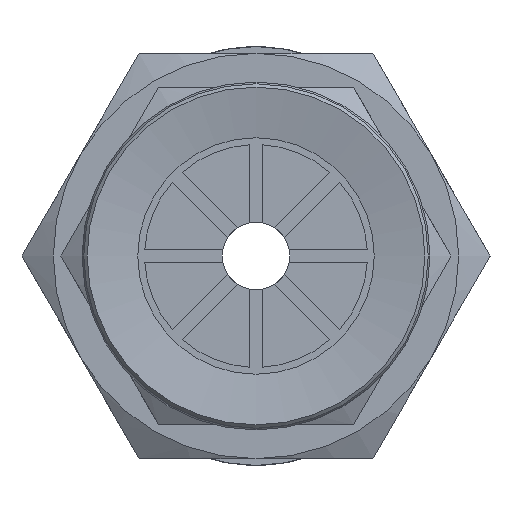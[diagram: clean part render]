
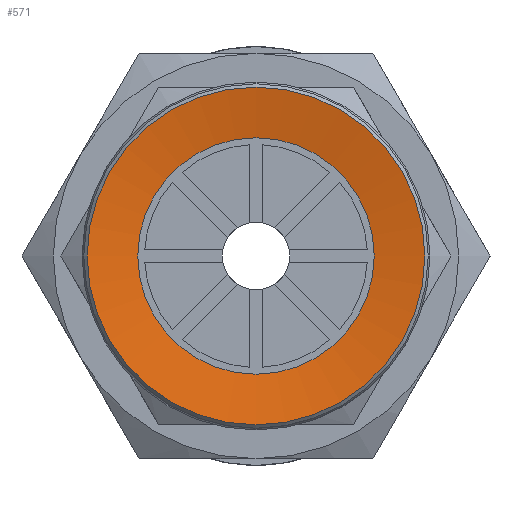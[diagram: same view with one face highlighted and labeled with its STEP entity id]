
A CAD part, front view. The second image highlights one B-rep face of the part: STEP entity #571.
In plain terms, the highlighted conical face has half-angle 80 degrees and reference radius 5 mm.
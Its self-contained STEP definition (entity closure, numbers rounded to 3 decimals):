
#571=ADVANCED_FACE('',(#913,#914),#915,.F.);
#913=FACE_BOUND('',#1338,.T.);
#914=FACE_OUTER_BOUND('',#1339,.T.);
#915=CONICAL_SURFACE('',#1340,5.0,1.396);
#1338=EDGE_LOOP('',(#2499));
#1339=EDGE_LOOP('',(#2500));
#1340=AXIS2_PLACEMENT_3D('',#2501,#2502,#2503);
#2499=ORIENTED_EDGE('',*,*,#3011,.T.);
#2500=ORIENTED_EDGE('',*,*,#2986,.F.);
#2501=CARTESIAN_POINT('',(0.0,0.,0.));
#2502=DIRECTION('',(0.0,0.,-1.0));
#2503=DIRECTION('',(0.0,1.0,0.));
#2986=EDGE_CURVE('',#3400,#3400,#3401,.T.);
#3011=EDGE_CURVE('',#3450,#3450,#3451,.T.);
#3400=VERTEX_POINT('',#4268);
#3401=CIRCLE('',#4269,5.0);
#3450=VERTEX_POINT('',#4332);
#3451=CIRCLE('',#4333,3.5);
#4268=CARTESIAN_POINT('',(0.0,-5.0,0.));
#4269=AXIS2_PLACEMENT_3D('',#5186,#5187,#5188);
#4332=CARTESIAN_POINT('',(0.0,-3.5,0.264));
#4333=AXIS2_PLACEMENT_3D('',#5233,#5234,#5235);
#5186=CARTESIAN_POINT('',(0.0,0.,0.));
#5187=DIRECTION('',(0.0,0.,1.0));
#5188=DIRECTION('',(0.0,-1.0,0.));
#5233=CARTESIAN_POINT('',(0.0,0.,0.264));
#5234=DIRECTION('',(0.0,0.,1.0));
#5235=DIRECTION('',(0.0,-1.0,0.));
